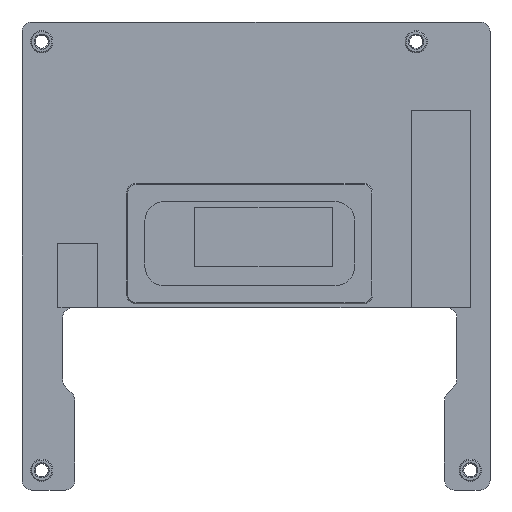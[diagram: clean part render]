
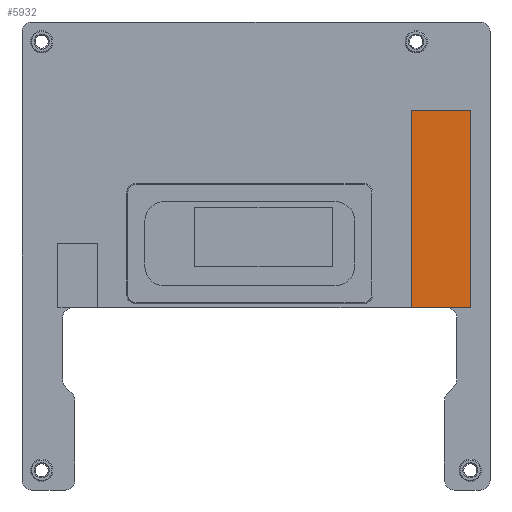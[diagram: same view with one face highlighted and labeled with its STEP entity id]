
A CAD part, front view. The second image highlights one B-rep face of the part: STEP entity #5932.
In plain terms, the highlighted planar face has unit normal (0, -1, 0).
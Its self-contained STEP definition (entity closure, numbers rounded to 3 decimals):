
#5817=DIRECTION('',(1.,0.,0.));
#5818=VECTOR('',#5817,40.);
#5819=CARTESIAN_POINT('',(0.,0.,12.));
#5820=LINE('',#5819,#5818);
#5824=DIRECTION('',(0.,0.,-1.));
#5825=VECTOR('',#5824,12.);
#5826=CARTESIAN_POINT('',(40.,0.,12.));
#5827=LINE('',#5826,#5825);
#5831=DIRECTION('',(-1.,0.,0.));
#5832=VECTOR('',#5831,40.);
#5833=CARTESIAN_POINT('',(40.,0.,0.));
#5834=LINE('',#5833,#5832);
#5838=DIRECTION('',(0.,0.,1.));
#5839=VECTOR('',#5838,12.);
#5840=CARTESIAN_POINT('',(0.,0.,0.));
#5841=LINE('',#5840,#5839);
#5901=CARTESIAN_POINT('',(0.,0.,12.));
#5902=CARTESIAN_POINT('',(40.,0.,12.));
#5903=VERTEX_POINT('',#5901);
#5904=VERTEX_POINT('',#5902);
#5905=CARTESIAN_POINT('',(40.,0.,0.));
#5906=VERTEX_POINT('',#5905);
#5907=CARTESIAN_POINT('',(0.,0.,0.));
#5908=VERTEX_POINT('',#5907);
#5917=CARTESIAN_POINT('',(0.,0.,0.));
#5918=DIRECTION('',(0.,1.,0.));
#5919=DIRECTION('',(1.,0.,0.));
#5920=AXIS2_PLACEMENT_3D('',#5917,#5918,#5919);
#5921=PLANE('',#5920);
#5923=ORIENTED_EDGE('',*,*,#5922,.T.);
#5925=ORIENTED_EDGE('',*,*,#5924,.T.);
#5927=ORIENTED_EDGE('',*,*,#5926,.T.);
#5929=ORIENTED_EDGE('',*,*,#5928,.T.);
#5930=EDGE_LOOP('',(#5923,#5925,#5927,#5929));
#5931=FACE_OUTER_BOUND('',#5930,.F.);
#5922=EDGE_CURVE('',#5903,#5904,#5820,.T.);
#5924=EDGE_CURVE('',#5904,#5906,#5827,.T.);
#5926=EDGE_CURVE('',#5906,#5908,#5834,.T.);
#5928=EDGE_CURVE('',#5908,#5903,#5841,.T.);
#5932=ADVANCED_FACE('',(#5931),#5921,.F.);
